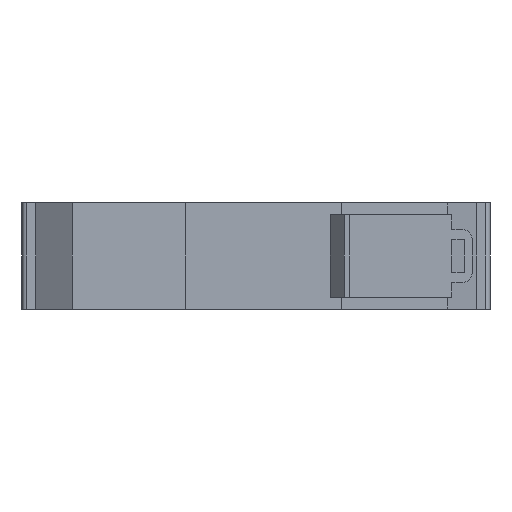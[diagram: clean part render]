
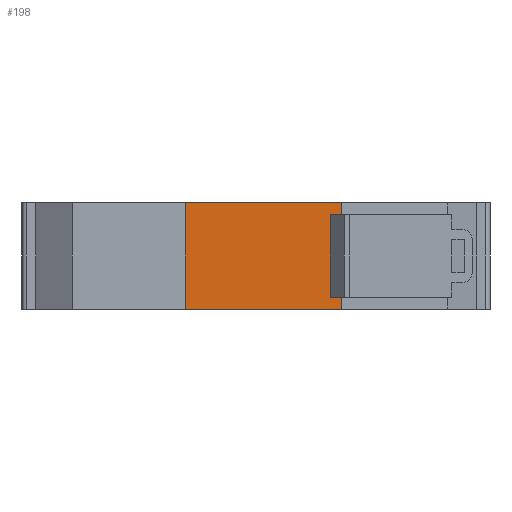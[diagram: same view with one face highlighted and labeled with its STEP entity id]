
A CAD part, front view. The second image highlights one B-rep face of the part: STEP entity #198.
In plain terms, the highlighted planar face has unit normal (0, -1, 0).
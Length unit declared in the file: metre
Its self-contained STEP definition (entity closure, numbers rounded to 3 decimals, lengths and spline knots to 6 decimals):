
#198 = ADVANCED_FACE( '', ( #526 ), #527, .T. );
#526 = FACE_OUTER_BOUND( '', #980, .T. );
#527 = PLANE( '', #981 );
#980 = EDGE_LOOP( '', ( #1519, #1520, #1521, #1522 ) );
#981 = AXIS2_PLACEMENT_3D( '', #1523, #1524, #1525 );
#1519 = ORIENTED_EDGE( '', *, *, #2821, .F. );
#1520 = ORIENTED_EDGE( '', *, *, #2822, .T. );
#1521 = ORIENTED_EDGE( '', *, *, #2823, .F. );
#1522 = ORIENTED_EDGE( '', *, *, #2824, .F. );
#1523 = CARTESIAN_POINT( '', ( 0., 0., 0.0675 ) );
#1524 = DIRECTION( '', ( 0., -1., 0. ) );
#1525 = DIRECTION( '', ( 1., 0., 0. ) );
#2821 = EDGE_CURVE( '', #3429, #3430, #3431, .T. );
#2822 = EDGE_CURVE( '', #3429, #3432, #3433, .F. );
#2823 = EDGE_CURVE( '', #3434, #3432, #3435, .T. );
#2824 = EDGE_CURVE( '', #3430, #3434, #3436, .F. );
#3429 = VERTEX_POINT( '', #4291 );
#3430 = VERTEX_POINT( '', #4292 );
#3431 = LINE( '', #4293, #4294 );
#3432 = VERTEX_POINT( '', #4295 );
#3433 = LINE( '', #4296, #4297 );
#3434 = VERTEX_POINT( '', #4298 );
#3435 = LINE( '', #4299, #4300 );
#3436 = LINE( '', #4301, #4302 );
#4291 = CARTESIAN_POINT( '', ( 0., 0., 0.045 ) );
#4292 = CARTESIAN_POINT( '', ( 0.0356, 0., 0.045 ) );
#4293 = CARTESIAN_POINT( '', ( 0., 0., 0.045 ) );
#4294 = VECTOR( '', #5290, 1. );
#4295 = CARTESIAN_POINT( '', ( 0., 0., 0.0225 ) );
#4296 = CARTESIAN_POINT( '', ( 0., 0., 0.0675 ) );
#4297 = VECTOR( '', #5291, 1. );
#4298 = CARTESIAN_POINT( '', ( 0.0356, 0., 0.0225 ) );
#4299 = CARTESIAN_POINT( '', ( 0., 0., 0.0225 ) );
#4300 = VECTOR( '', #5292, 1. );
#4301 = CARTESIAN_POINT( '', ( 0.0356, 0., 0.0675 ) );
#4302 = VECTOR( '', #5293, 1. );
#5290 = DIRECTION( '', ( 1., 0., 0. ) );
#5291 = DIRECTION( '', ( 0., 0., 1. ) );
#5292 = DIRECTION( '', ( -1., 0., 0. ) );
#5293 = DIRECTION( '', ( 0., 0., 1. ) );
